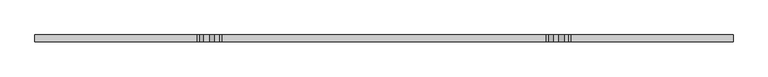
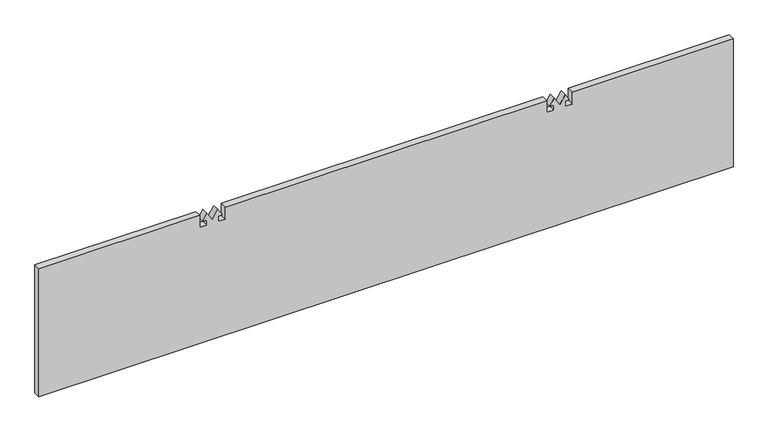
"""IFC4 building model written with IfcOpenShell, lengths in millimetres: proxy geometry, instalación_stratus 6.3dm."""

from ifc_helpers import new_model, si_unit, frame, origin, place, context, project, spatial, polyline, outline, extrude, source, transform, mapped, element, save


def generic_models_d730558e(model_context):
    return source(origin(), model_context, "Body", "SweptSolid", [
        extrude(outline(polyline([(-42.5638653, 926.946519), (-42.5638653, 914.688842), (-33.2622966, 914.688842), (-33.2622966, 922.0592541), (-20.65, 914.42236), (-36.4174225, 904.875), (-20.65, 895.32764), (-33.2622966, 887.6907459), (-33.2622966, 895.061158), (-42.5638653, 895.061158), (-42.5638653, 882.803481), (-20.65, 882.803481), (-20.65, 323.696519), (-42.5638653, 323.696519), (-42.5638653, 311.438842), (-33.2622966, 311.438842), (-33.2622966, 318.8092541), (-20.65, 311.17236), (-36.4174225, 301.625), (-20.65, 292.07764), (-33.2622966, 284.4407459), (-33.2622966, 291.811158), (-42.5638653, 291.811158), (-42.5638653, 279.553481), (-20.65, 279.553481), (-20.65, 0.0), (-255.6, 0.0), (-255.6, 1206.5), (-20.65, 1206.5), (-20.65, 926.946519), (-42.5638653, 926.946519)])), frame((0.0, 688.0310804, 0.0), z_axis=(0.0, 1.0, 0.0), x_axis=(0.0, 0.0, 1.0)), (0.0, 0.0, 1.0), 12.0),
    ])


if __name__ == "__main__":
    model = new_model("IFC4")
    model_context = context("Model", 3, world=origin())
    ifc_project = project(units=[si_unit("LENGTHUNIT", "METRE", prefix="MILLI")], contexts=[model_context])
    site = spatial("IfcSite", under=ifc_project)
    building = spatial("IfcBuilding", under=site)
    placement = place(None, origin())
    generic_models_shape = generic_models_d730558e(model_context)
    element("IfcBuildingElementProxy", 1, Name="instalación_stratus 6.3dm", ObjectType="instalación_stratus 6.3dm", at=placement, inside=building, context=model_context, shape_type="MappedRepresentation", body=[
        mapped(generic_models_shape, transform((0.0, 0.0, 0.0), x_axis=(1.0, 0.0, 0.0), y_axis=(0.0, 1.0, 0.0), z_axis=(0.0, 0.0, 1.0))),
    ])
    save(model, "model.ifc")
